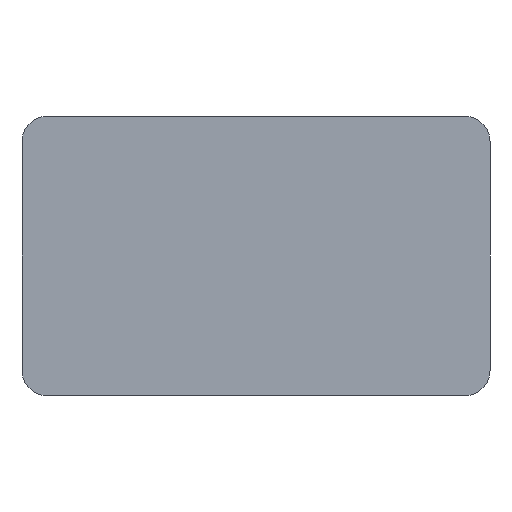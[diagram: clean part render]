
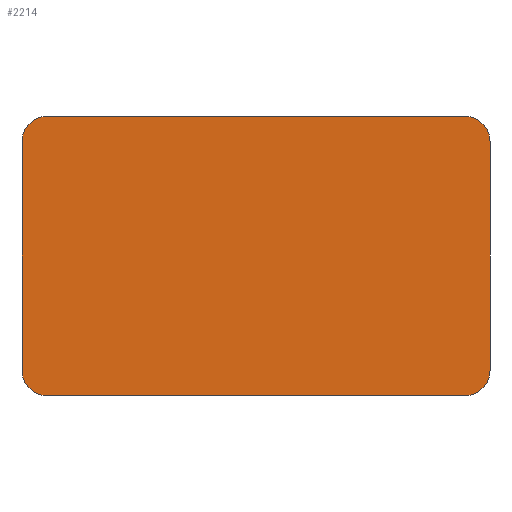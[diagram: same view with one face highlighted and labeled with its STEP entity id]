
A CAD part, front view. The second image highlights one B-rep face of the part: STEP entity #2214.
In plain terms, the highlighted planar face has unit normal (0, -1, 0).
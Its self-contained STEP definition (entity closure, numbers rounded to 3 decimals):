
#83 = LINE ( 'NONE', #1870, #2242 ) ;
#90 = ORIENTED_EDGE ( 'NONE', *, *, #1709, .F. ) ;
#169 = PLANE ( 'NONE',  #1611 ) ;
#180 = CARTESIAN_POINT ( 'NONE',  ( 87., 0., 22.5 ) ) ;
#204 = ORIENTED_EDGE ( 'NONE', *, *, #527, .T. ) ;
#213 = DIRECTION ( 'NONE',  ( 1., 0., 0. ) ) ;
#245 = VERTEX_POINT ( 'NONE', #1982 ) ;
#276 = AXIS2_PLACEMENT_3D ( 'NONE', #2480, #2449, #1274 ) ;
#284 = CARTESIAN_POINT ( 'NONE',  ( 0., 0., -27.5 ) ) ;
#363 = EDGE_CURVE ( 'NONE', #2593, #1229, #2017, .T. ) ;
#373 = DIRECTION ( 'NONE',  ( 0., 0., -1. ) ) ;
#381 = DIRECTION ( 'NONE',  ( 0., 0., 1. ) ) ;
#407 = CARTESIAN_POINT ( 'NONE',  ( 0., 0., 0. ) ) ;
#519 = ORIENTED_EDGE ( 'NONE', *, *, #2164, .T. ) ;
#527 = EDGE_CURVE ( 'NONE', #2593, #2431, #2455, .T. ) ;
#587 = EDGE_CURVE ( 'NONE', #1537, #904, #83, .T. ) ;
#611 = ORIENTED_EDGE ( 'NONE', *, *, #363, .F. ) ;
#626 = CARTESIAN_POINT ( 'NONE',  ( 5., 0., -27.5 ) ) ;
#648 = VECTOR ( 'NONE', #213, 1000. ) ;
#674 = LINE ( 'NONE', #284, #2066 ) ;
#679 = CARTESIAN_POINT ( 'NONE',  ( 0., 0., 22.5 ) ) ;
#690 = DIRECTION ( 'NONE',  ( 0., 0., 1. ) ) ;
#709 = CARTESIAN_POINT ( 'NONE',  ( 5., 0., 27.5 ) ) ;
#756 = DIRECTION ( 'NONE',  ( 0., 0., 1. ) ) ;
#787 = CARTESIAN_POINT ( 'NONE',  ( 92., 0., 27.5 ) ) ;
#797 = DIRECTION ( 'NONE',  ( 0., 0., 1. ) ) ;
#834 = EDGE_LOOP ( 'NONE', ( #611, #204, #90, #1677, #1735, #1946, #2425, #519 ) ) ;
#848 = AXIS2_PLACEMENT_3D ( 'NONE', #180, #2180, #797 ) ;
#904 = VERTEX_POINT ( 'NONE', #626 ) ;
#914 = AXIS2_PLACEMENT_3D ( 'NONE', #1936, #919, #1695 ) ;
#919 = DIRECTION ( 'NONE',  ( 0., -1., 0. ) ) ;
#995 = LINE ( 'NONE', #787, #1155 ) ;
#1155 = VECTOR ( 'NONE', #373, 1000. ) ;
#1194 = DIRECTION ( 'NONE',  ( 0., -1., 0. ) ) ;
#1229 = VERTEX_POINT ( 'NONE', #1994 ) ;
#1274 = DIRECTION ( 'NONE',  ( 0., 0., 1. ) ) ;
#1306 = AXIS2_PLACEMENT_3D ( 'NONE', #1955, #1194, #756 ) ;
#1334 = EDGE_CURVE ( 'NONE', #1759, #904, #2041, .T. ) ;
#1397 = CARTESIAN_POINT ( 'NONE',  ( 92., 0., 22.5 ) ) ;
#1486 = EDGE_CURVE ( 'NONE', #1537, #245, #1769, .T. ) ;
#1537 = VERTEX_POINT ( 'NONE', #1792 ) ;
#1556 = CARTESIAN_POINT ( 'NONE',  ( 0., 0., -22.5 ) ) ;
#1611 = AXIS2_PLACEMENT_3D ( 'NONE', #407, #2228, #381 ) ;
#1677 = ORIENTED_EDGE ( 'NONE', *, *, #1334, .T. ) ;
#1695 = DIRECTION ( 'NONE',  ( 0., 0., 1. ) ) ;
#1709 = EDGE_CURVE ( 'NONE', #1759, #2431, #674, .T. ) ;
#1735 = ORIENTED_EDGE ( 'NONE', *, *, #587, .F. ) ;
#1759 = VERTEX_POINT ( 'NONE', #1556 ) ;
#1769 = CIRCLE ( 'NONE', #1306, 5. ) ;
#1792 = CARTESIAN_POINT ( 'NONE',  ( 87., 0., -27.5 ) ) ;
#1833 = EDGE_CURVE ( 'NONE', #1854, #245, #995, .T. ) ;
#1854 = VERTEX_POINT ( 'NONE', #1397 ) ;
#1870 = CARTESIAN_POINT ( 'NONE',  ( 92., 0., -27.5 ) ) ;
#1936 = CARTESIAN_POINT ( 'NONE',  ( 5., 0., -22.5 ) ) ;
#1946 = ORIENTED_EDGE ( 'NONE', *, *, #1486, .T. ) ;
#1955 = CARTESIAN_POINT ( 'NONE',  ( 87., 0., -22.5 ) ) ;
#1982 = CARTESIAN_POINT ( 'NONE',  ( 92., 0., -22.5 ) ) ;
#1994 = CARTESIAN_POINT ( 'NONE',  ( 87., 0., 27.5 ) ) ;
#2017 = LINE ( 'NONE', #2029, #648 ) ;
#2029 = CARTESIAN_POINT ( 'NONE',  ( 0., 0., 27.5 ) ) ;
#2041 = CIRCLE ( 'NONE', #914, 5. ) ;
#2066 = VECTOR ( 'NONE', #690, 1000. ) ;
#2155 = CIRCLE ( 'NONE', #848, 5. ) ;
#2164 = EDGE_CURVE ( 'NONE', #1854, #1229, #2155, .T. ) ;
#2180 = DIRECTION ( 'NONE',  ( 0., -1., 0. ) ) ;
#2214 = ADVANCED_FACE ( 'NONE', ( #2428 ), #169, .F. ) ;
#2228 = DIRECTION ( 'NONE',  ( 0., 1., 0. ) ) ;
#2242 = VECTOR ( 'NONE', #2283, 1000. ) ;
#2283 = DIRECTION ( 'NONE',  ( -1., 0., 0. ) ) ;
#2425 = ORIENTED_EDGE ( 'NONE', *, *, #1833, .F. ) ;
#2428 = FACE_OUTER_BOUND ( 'NONE', #834, .T. ) ;
#2431 = VERTEX_POINT ( 'NONE', #679 ) ;
#2449 = DIRECTION ( 'NONE',  ( 0., -1., 0. ) ) ;
#2455 = CIRCLE ( 'NONE', #276, 5. ) ;
#2480 = CARTESIAN_POINT ( 'NONE',  ( 5., 0., 22.5 ) ) ;
#2593 = VERTEX_POINT ( 'NONE', #709 ) ;
